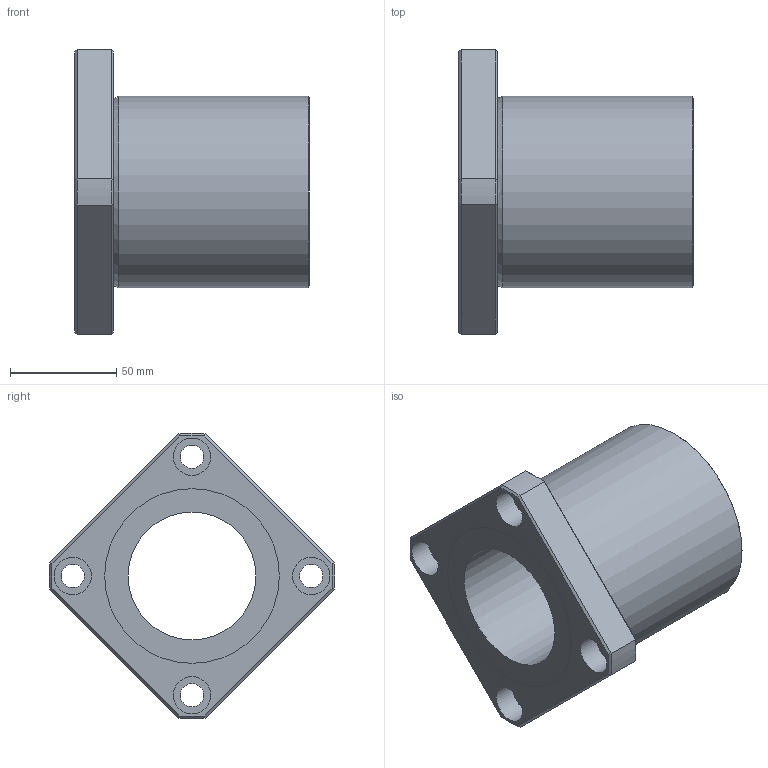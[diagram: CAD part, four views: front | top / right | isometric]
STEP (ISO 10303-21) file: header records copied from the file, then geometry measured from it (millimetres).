
FILE_DESCRIPTION((''),'2;1');
FILE_NAME('D:\製品 (図面)\カタログ用3D\リニアベアリング関連\STEP形式\LFK\LFK60.stp','2010-06-04T08:51:22',('Tsuchiya'),(''),'Autodesk Inventor 10','Autodesk Inventor 10','');
FILE_SCHEMA(('AUTOMOTIVE_DESIGN { 1 0 10303 214 1 1 1 1 }'));
Length unit declared in the file: millimetre
Products named in the file (1): LFK60
Bounding box: 110 x 133.94 x 133.94 mm (x, y, z)
Volume: 448173.2 mm3; surface area: 71494.2 mm2
Topology: 1 solids, 1 shells, 47 faces, 96 edges, 58 vertices
Faces by surface type: plane 21, cylinder 16, cone 8, torus 1, bspline 1
Full cylindrical faces by diameter (mm): 11 x4, 17.5 x4, 60 x1, 82 x2, 90 x1
Entity records: 1257 total; most frequent: CARTESIAN_POINT 280, DIRECTION 202, ORIENTED_EDGE 164, AXIS2_PLACEMENT_3D 89, EDGE_CURVE 82, EDGE_LOOP 78, VERTEX_POINT 58, FACE_OUTER_BOUND 47
